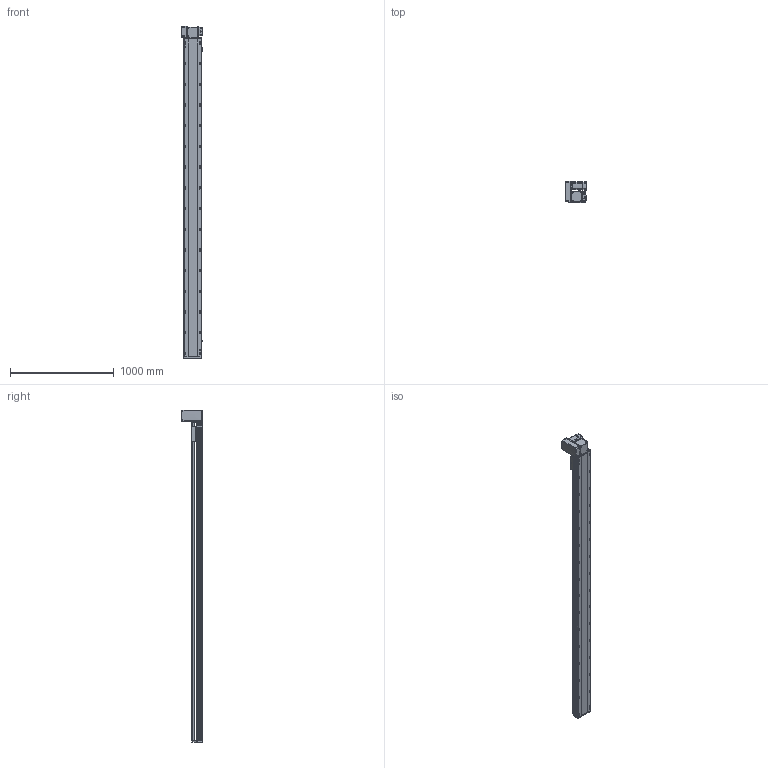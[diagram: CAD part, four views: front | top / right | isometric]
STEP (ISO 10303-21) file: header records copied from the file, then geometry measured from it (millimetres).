
FILE_DESCRIPTION (( 'STEP AP214' ), '1' );
FILE_NAME ('RTB17S-XX-2800-LW-M75-C4.STEP', '2025-12-12T01:19:03', ( '' ), ( '' ), 'SwSTEP 2.0', 'SolidWorks 2018', '' );
FILE_SCHEMA (( 'AUTOMOTIVE_DESIGN' ));
Length unit declared in the file: millimetre
Products named in the file (15): RTB22S-GY-018P^RTB17S-LW-々湍釱蚾饜-750W_RTB17S-XX-XX-LW-M75-C4; RTB22S-GY-008-M75--萇儂啣^RTB17S-LW-々湍釱蚾饜-750W_RTB17S-XX-XX-LW-M75-C4; RTH13-BL-012覜茼え俋离^RTB17S-賑釱_RTB17S-XX-XX-LW-M75-C4; RTB17S-XX-2800-LW-M75-C4; RTB17S-LW-々湍釱蚾饜-750W^RTB17S-XX-XX-LW-M75-C4; EE672^RTB17S-XX-XX-LW-M75-C4; RTB22S-GY-017P^RTB17S-LW-々湍釱蚾饜-750W_RTB17S-XX-XX-LW-M75-C4; RTB17S-賑釱^RTB17S-XX-XX-LW-M75-C4; RTB17S-L-004-賑釱^RTB17S-賑釱_RTB17S-XX-XX-LW-M75-C4; RTB22S-GY-005P^RTB17S-LW-々湍釱蚾饜-750W_RTB17S-XX-XX-LW-M75-C4; RTB17S-L-014-T20-P75--々湍釱^RTB17S-LW-々湍釱蚾饜-750W_RTB17S-XX-XX-LW-M75-C4; 750W萇儂^RTB17S-XX-XX-LW-M75-C4; RTB17S-L-001-耜醱啣^RTB17S-XX-XX-LW-M75-C4; RTB17S-L-007奻裔^RTB17S-XX-XX-LW-M75-C4; RTB17-R-011菁釱^RTB17S-XX-XX-LW-M75-C4
Assembly tree (17 placements, depth 3):
  RTB17S-XX-2800-LW-M75-C4
    RTB17-R-011菁釱^RTB17S-XX-XX-LW-M75-C4
    EE672^RTB17S-XX-XX-LW-M75-C4  x3
    RTB17S-L-001-耜醱啣^RTB17S-XX-XX-LW-M75-C4
    RTB17S-賑釱^RTB17S-XX-XX-LW-M75-C4
      RTB17S-L-004-賑釱^RTB17S-賑釱_RTB17S-XX-XX-LW-M75-C4
      RTH13-BL-012覜茼え俋离^RTB17S-賑釱_RTB17S-XX-XX-LW-M75-C4
    RTB17S-L-007奻裔^RTB17S-XX-XX-LW-M75-C4
    750W萇儂^RTB17S-XX-XX-LW-M75-C4
    RTB17S-LW-々湍釱蚾饜-750W^RTB17S-XX-XX-LW-M75-C4
      RTB17S-L-014-T20-P75--々湍釱^RTB17S-LW-々湍釱蚾饜-750W_RTB17S-XX-XX-LW-M75-C4
      RTB22S-GY-005P^RTB17S-LW-々湍釱蚾饜-750W_RTB17S-XX-XX-LW-M75-C4
      RTB22S-GY-017P^RTB17S-LW-々湍釱蚾饜-750W_RTB17S-XX-XX-LW-M75-C4  x2
      RTB22S-GY-008-M75--萇儂啣^RTB17S-LW-々湍釱蚾饜-750W_RTB17S-XX-XX-LW-M75-C4
      RTB22S-GY-018P^RTB17S-LW-々湍釱蚾饜-750W_RTB17S-XX-XX-LW-M75-C4
Bounding box: 210.4 x 201.5 x 3207.5 mm (x, y, z)
Volume: 23455846.1 mm3; surface area: 4281012.3 mm2
Topology: 17 solids, 17 shells, 2233 faces, 6268 edges, 4058 vertices
Faces by surface type: plane 988, cylinder 829, bspline 294, cone 110, sphere 8, torus 4
Entity records: 65014 total; most frequent: CARTESIAN_POINT 19332, ORIENTED_EDGE 9380, DIRECTION 8672, EDGE_CURVE 4690, AXIS2_PLACEMENT_3D 3078, VERTEX_POINT 3062, VECTOR 2516, LINE 2516
